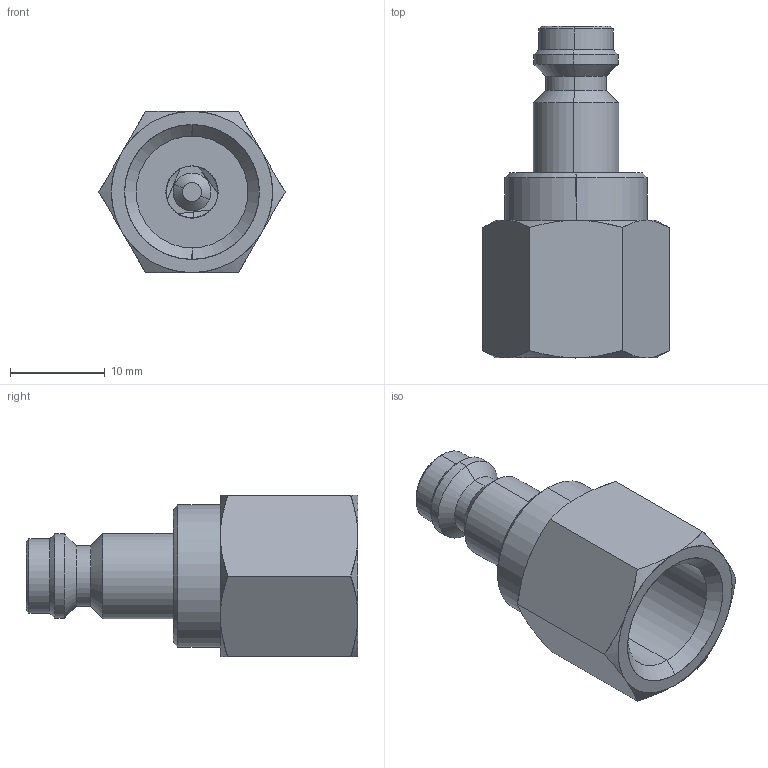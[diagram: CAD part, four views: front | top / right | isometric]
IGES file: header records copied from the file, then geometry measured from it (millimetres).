
Start section: SolidWorks IGES file using analytic representation for surfaces
Global section: file name: K:\Disegni Esecutivi\Serie 100-200\ASSIEMI\282\282_pieni\0028200002A.IGS; native system: SolidWorks 2009; preprocessor: SolidWorks 2009; author: cad05; date: 090518.160455; units: millimetre
Bounding box: 19.63 x 35 x 17 mm (x, y, z)
Surface area: 3491.4 mm2 (no closed solid volume)
Topology: 0 solids, 0 shells, 107 faces, 1390 edges, 1390 vertices
Faces by surface type: revolution 76, bspline 31
